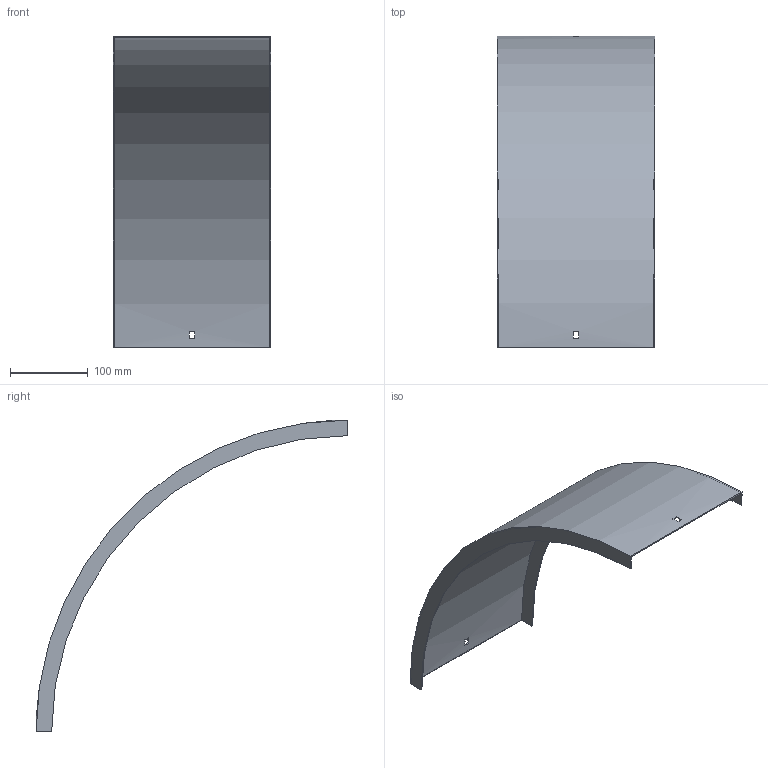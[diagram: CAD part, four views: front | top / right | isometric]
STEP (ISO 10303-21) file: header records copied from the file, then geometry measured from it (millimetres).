
FILE_DESCRIPTION (( 'STEP AP214' ), '1' );
FILE_NAME ('B2_33N3D200.step', '2025-02-21T10:46:58', ( '' ), ( '' ), 'SwSTEP 2.0', 'SolidWorks 2023', '' );
FILE_SCHEMA (( 'AUTOMOTIVE_DESIGN' ));
Length unit declared in the file: millimetre
Products named in the file (1): B2_33N3D200
Bounding box: 203 x 401.5 x 401.5 mm (x, y, z)
Volume: 225571.3 mm3; surface area: 303376.2 mm2
Topology: 1 solids, 1 shells, 18 faces, 48 edges, 32 vertices
Faces by surface type: plane 14, cylinder 4
Entity records: 599 total; most frequent: DIRECTION 102, CARTESIAN_POINT 99, ORIENTED_EDGE 96, EDGE_CURVE 48, AXIS2_PLACEMENT_3D 35, VECTOR 32, VERTEX_POINT 32, LINE 32
